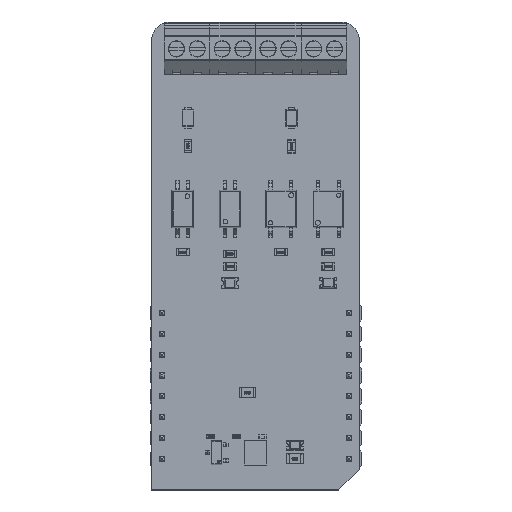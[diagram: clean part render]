
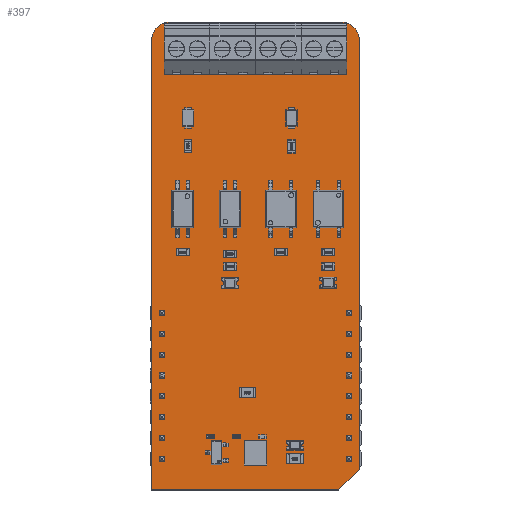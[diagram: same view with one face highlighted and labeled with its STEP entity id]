
A CAD part, top view. The second image highlights one B-rep face of the part: STEP entity #397.
In plain terms, the highlighted planar face has unit normal (0, 0, 1).
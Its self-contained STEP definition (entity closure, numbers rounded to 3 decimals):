
#168 = VERTEX_POINT('',#169);
#169 = CARTESIAN_POINT('',(-1.27,-3.81,1.59));
#175 = EDGE_CURVE('',#168,#176,#178,.T.);
#176 = VERTEX_POINT('',#177);
#177 = CARTESIAN_POINT('',(-1.27,51.054,1.59));
#178 = LINE('',#179,#180);
#179 = CARTESIAN_POINT('',(-1.27,-3.81,1.59));
#180 = VECTOR('',#181,1.);
#181 = DIRECTION('',(0.,1.,0.));
#206 = EDGE_CURVE('',#176,#207,#209,.T.);
#207 = VERTEX_POINT('',#208);
#208 = CARTESIAN_POINT('',(1.016,53.34,1.59));
#209 = CIRCLE('',#210,2.288);
#210 = AXIS2_PLACEMENT_3D('',#211,#212,#213);
#211 = CARTESIAN_POINT('',(1.018,51.052,1.59));
#212 = DIRECTION('',(0.,0.,-1.));
#213 = DIRECTION('',(-1.,0.001,0.));
#239 = EDGE_CURVE('',#207,#240,#242,.T.);
#240 = VERTEX_POINT('',#241);
#241 = CARTESIAN_POINT('',(21.844,53.34,1.59));
#242 = LINE('',#243,#244);
#243 = CARTESIAN_POINT('',(1.016,53.34,1.59));
#244 = VECTOR('',#245,1.);
#245 = DIRECTION('',(1.,0.,0.));
#270 = EDGE_CURVE('',#240,#271,#273,.T.);
#271 = VERTEX_POINT('',#272);
#272 = CARTESIAN_POINT('',(24.13,51.054,1.59));
#273 = CIRCLE('',#274,2.288);
#274 = AXIS2_PLACEMENT_3D('',#275,#276,#277);
#275 = CARTESIAN_POINT('',(21.842,51.052,1.59));
#276 = DIRECTION('',(0.,0.,-1.));
#277 = DIRECTION('',(0.001,1.,0.));
#303 = EDGE_CURVE('',#271,#304,#306,.T.);
#304 = VERTEX_POINT('',#305);
#305 = CARTESIAN_POINT('',(24.13,-1.27,1.59));
#306 = LINE('',#307,#308);
#307 = CARTESIAN_POINT('',(24.13,51.054,1.59));
#308 = VECTOR('',#309,1.);
#309 = DIRECTION('',(0.,-1.,0.));
#334 = EDGE_CURVE('',#304,#335,#337,.T.);
#335 = VERTEX_POINT('',#336);
#336 = CARTESIAN_POINT('',(21.59,-3.81,1.59));
#337 = LINE('',#338,#339);
#338 = CARTESIAN_POINT('',(24.13,-1.27,1.59));
#339 = VECTOR('',#340,1.);
#340 = DIRECTION('',(-0.707,-0.707,0.));
#365 = EDGE_CURVE('',#335,#168,#366,.T.);
#366 = LINE('',#367,#368);
#367 = CARTESIAN_POINT('',(21.59,-3.81,1.59));
#368 = VECTOR('',#369,1.);
#369 = DIRECTION('',(-1.,0.,0.));
#397 = ADVANCED_FACE('',(#398),#407,.F.);
#398 = FACE_BOUND('',#399,.F.);
#399 = EDGE_LOOP('',(#400,#401,#402,#403,#404,#405,#406));
#400 = ORIENTED_EDGE('',*,*,#175,.T.);
#401 = ORIENTED_EDGE('',*,*,#206,.T.);
#402 = ORIENTED_EDGE('',*,*,#239,.T.);
#403 = ORIENTED_EDGE('',*,*,#270,.T.);
#404 = ORIENTED_EDGE('',*,*,#303,.T.);
#405 = ORIENTED_EDGE('',*,*,#334,.T.);
#406 = ORIENTED_EDGE('',*,*,#365,.T.);
#407 = PLANE('',#408);
#408 = AXIS2_PLACEMENT_3D('',#409,#410,#411);
#409 = CARTESIAN_POINT('',(11.305,24.669,1.59));
#410 = DIRECTION('',(-0.,-0.,-1.));
#411 = DIRECTION('',(-1.,0.,0.));
